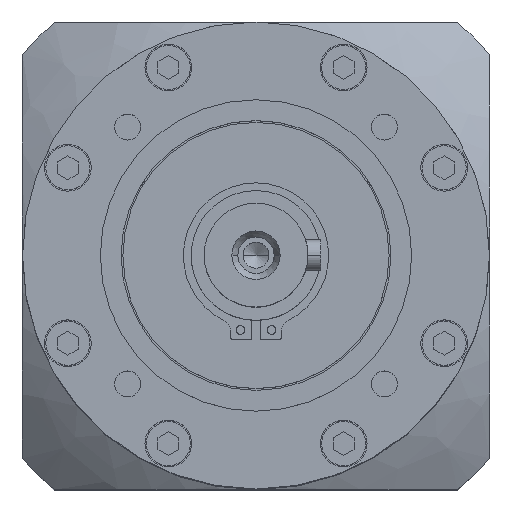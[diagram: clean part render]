
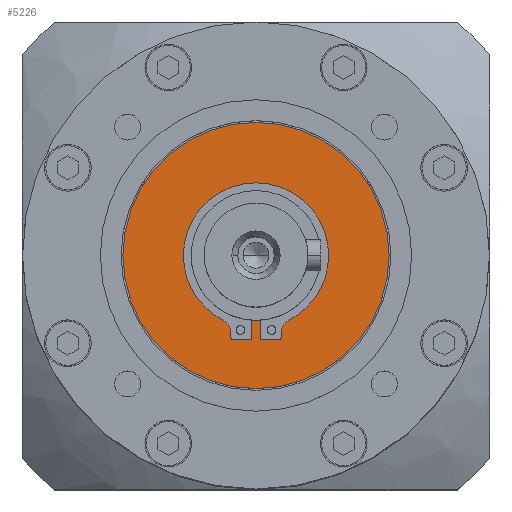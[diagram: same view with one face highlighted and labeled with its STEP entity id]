
A CAD part, top view. The second image highlights one B-rep face of the part: STEP entity #5226.
In plain terms, the highlighted planar face has unit normal (0, 0, 1).
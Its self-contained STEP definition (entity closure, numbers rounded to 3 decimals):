
#74 = DIRECTION ( 'NONE',  ( 0., 0., 1. ) ) ;
#121 = ORIENTED_EDGE ( 'NONE', *, *, #3882, .F. ) ;
#212 = VERTEX_POINT ( 'NONE', #26158 ) ;
#440 = DIRECTION ( 'NONE',  ( 0., 0., 1. ) ) ;
#458 = VERTEX_POINT ( 'NONE', #3095 ) ;
#559 = CIRCLE ( 'NONE', #5361, 12.5 ) ;
#627 = ORIENTED_EDGE ( 'NONE', *, *, #7510, .F. ) ;
#1059 = VERTEX_POINT ( 'NONE', #4202 ) ;
#1067 = CIRCLE ( 'NONE', #20958, 14. ) ;
#1071 = CARTESIAN_POINT ( 'NONE',  ( 0., -16.271, -2.5 ) ) ;
#1305 = CARTESIAN_POINT ( 'NONE',  ( -0.85, -16.271, -2.5 ) ) ;
#1336 = EDGE_CURVE ( 'NONE', #12177, #26310, #16762, .T. ) ;
#1368 = DIRECTION ( 'NONE',  ( 1., 0., 0. ) ) ;
#1464 = DIRECTION ( 'NONE',  ( -1., 0., 0. ) ) ;
#1473 = DIRECTION ( 'NONE',  ( 0., 0., -1. ) ) ;
#1507 = ORIENTED_EDGE ( 'NONE', *, *, #8614, .F. ) ;
#1529 = VECTOR ( 'NONE', #23571, 1000. ) ;
#1537 = CARTESIAN_POINT ( 'NONE',  ( 0., 0., -2.5 ) ) ;
#2169 = DIRECTION ( 'NONE',  ( -1., 0., 0. ) ) ;
#2192 = PLANE ( 'NONE',  #16504 ) ;
#2225 = DIRECTION ( 'NONE',  ( 0., 0., -1. ) ) ;
#2261 = CARTESIAN_POINT ( 'NONE',  ( -7.35, -14.773, -2.5 ) ) ;
#2567 = ORIENTED_EDGE ( 'NONE', *, *, #24922, .F. ) ;
#2584 = EDGE_LOOP ( 'NONE', ( #22343, #11453, #627, #14834, #19795, #1507, #15634, #121, #9579, #14348, #3889, #7183, #13733, #2567 ) ) ;
#2735 = FACE_OUTER_BOUND ( 'NONE', #22479, .T. ) ;
#3095 = CARTESIAN_POINT ( 'NONE',  ( 25.652, 0., -2.5 ) ) ;
#3249 = CIRCLE ( 'NONE', #22931, 14. ) ;
#3499 = DIRECTION ( 'NONE',  ( -1., 0., 0. ) ) ;
#3503 = DIRECTION ( 'NONE',  ( 0., 0., -1. ) ) ;
#3529 = CARTESIAN_POINT ( 'NONE',  ( 0., 0., -2.5 ) ) ;
#3882 = EDGE_CURVE ( 'NONE', #22290, #16355, #24054, .T. ) ;
#3889 = ORIENTED_EDGE ( 'NONE', *, *, #1336, .F. ) ;
#4044 = CARTESIAN_POINT ( 'NONE',  ( -4.85, -14.773, -2.5 ) ) ;
#4202 = CARTESIAN_POINT ( 'NONE',  ( -6.236, -12.534, -2.5 ) ) ;
#4575 = CARTESIAN_POINT ( 'NONE',  ( 6.236, -12.534, -2.5 ) ) ;
#4886 = DIRECTION ( 'NONE',  ( -1., 0., 0. ) ) ;
#5037 = VERTEX_POINT ( 'NONE', #4575 ) ;
#5052 = CARTESIAN_POINT ( 'NONE',  ( 4.85, -15.771, -2.5 ) ) ;
#5113 = LINE ( 'NONE', #1071, #21895 ) ;
#5226 = ADVANCED_FACE ( 'NONE', ( #2735, #24546 ), #2192, .F. ) ;
#5269 = EDGE_CURVE ( 'NONE', #26310, #11646, #5113, .T. ) ;
#5361 = AXIS2_PLACEMENT_3D ( 'NONE', #12974, #74, #15066 ) ;
#6253 = CARTESIAN_POINT ( 'NONE',  ( -4.85, 0., -2.5 ) ) ;
#6708 = AXIS2_PLACEMENT_3D ( 'NONE', #13327, #440, #15432 ) ;
#7183 = ORIENTED_EDGE ( 'NONE', *, *, #25403, .F. ) ;
#7429 = CARTESIAN_POINT ( 'NONE',  ( 4.35, -16.271, -2.5 ) ) ;
#7510 = EDGE_CURVE ( 'NONE', #1059, #19214, #23208, .T. ) ;
#7573 = VERTEX_POINT ( 'NONE', #1305 ) ;
#8194 = DIRECTION ( 'NONE',  ( 0., 1., 0. ) ) ;
#8201 = EDGE_CURVE ( 'NONE', #10905, #212, #19162, .T. ) ;
#8438 = DIRECTION ( 'NONE',  ( 0., 0., -1. ) ) ;
#8614 = EDGE_CURVE ( 'NONE', #5037, #19211, #20675, .T. ) ;
#9579 = ORIENTED_EDGE ( 'NONE', *, *, #22769, .F. ) ;
#9581 = EDGE_CURVE ( 'NONE', #13301, #458, #21426, .T. ) ;
#9725 = CARTESIAN_POINT ( 'NONE',  ( 0., 0., -2.5 ) ) ;
#10445 = CARTESIAN_POINT ( 'NONE',  ( 4.85, -14.773, -2.5 ) ) ;
#10903 = AXIS2_PLACEMENT_3D ( 'NONE', #25672, #25625, #25615 ) ;
#10905 = VERTEX_POINT ( 'NONE', #19004 ) ;
#10954 = VECTOR ( 'NONE', #20953, 1000. ) ;
#11453 = ORIENTED_EDGE ( 'NONE', *, *, #26506, .F. ) ;
#11524 = CIRCLE ( 'NONE', #6708, 0.5 ) ;
#11529 = CARTESIAN_POINT ( 'NONE',  ( 0., -16.271, -2.5 ) ) ;
#11646 = VERTEX_POINT ( 'NONE', #7429 ) ;
#11882 = DIRECTION ( 'NONE',  ( -1., 0., 0. ) ) ;
#12177 = VERTEX_POINT ( 'NONE', #20200 ) ;
#12393 = DIRECTION ( 'NONE',  ( 0., 0., 1. ) ) ;
#12426 = CARTESIAN_POINT ( 'NONE',  ( -14., 0., -2.5 ) ) ;
#12626 = AXIS2_PLACEMENT_3D ( 'NONE', #3529, #3503, #3499 ) ;
#12693 = CIRCLE ( 'NONE', #26846, 2.5 ) ;
#12974 = CARTESIAN_POINT ( 'NONE',  ( 0., 0., -2.5 ) ) ;
#13069 = LINE ( 'NONE', #20663, #23497 ) ;
#13096 = VERTEX_POINT ( 'NONE', #18907 ) ;
#13287 = LINE ( 'NONE', #11529, #24381 ) ;
#13301 = VERTEX_POINT ( 'NONE', #16731 ) ;
#13327 = CARTESIAN_POINT ( 'NONE',  ( 4.35, -15.771, -2.5 ) ) ;
#13564 = VERTEX_POINT ( 'NONE', #12426 ) ;
#13668 = CIRCLE ( 'NONE', #26664, 25.652 ) ;
#13707 = CARTESIAN_POINT ( 'NONE',  ( 0., 0., -2.5 ) ) ;
#13733 = ORIENTED_EDGE ( 'NONE', *, *, #20328, .F. ) ;
#14348 = ORIENTED_EDGE ( 'NONE', *, *, #5269, .F. ) ;
#14543 = AXIS2_PLACEMENT_3D ( 'NONE', #19588, #19562, #19543 ) ;
#14753 = EDGE_CURVE ( 'NONE', #19211, #13564, #3249, .T. ) ;
#14834 = ORIENTED_EDGE ( 'NONE', *, *, #22363, .F. ) ;
#14901 = EDGE_CURVE ( 'NONE', #458, #13301, #13668, .T. ) ;
#15066 = DIRECTION ( 'NONE',  ( -1., 0., 0. ) ) ;
#15432 = DIRECTION ( 'NONE',  ( -1., 0., 0. ) ) ;
#15634 = ORIENTED_EDGE ( 'NONE', *, *, #20929, .F. ) ;
#16355 = VERTEX_POINT ( 'NONE', #10445 ) ;
#16504 = AXIS2_PLACEMENT_3D ( 'NONE', #1537, #1473, #1464 ) ;
#16548 = LINE ( 'NONE', #6253, #10954 ) ;
#16731 = CARTESIAN_POINT ( 'NONE',  ( -25.652, 0., -2.5 ) ) ;
#16762 = LINE ( 'NONE', #23359, #1529 ) ;
#18273 = CARTESIAN_POINT ( 'NONE',  ( 0.85, -16.271, -2.5 ) ) ;
#18384 = ORIENTED_EDGE ( 'NONE', *, *, #14901, .F. ) ;
#18763 = CARTESIAN_POINT ( 'NONE',  ( 14., 0., -2.5 ) ) ;
#18907 = CARTESIAN_POINT ( 'NONE',  ( -0.85, -12.471, -2.5 ) ) ;
#19004 = CARTESIAN_POINT ( 'NONE',  ( -4.85, -15.771, -2.5 ) ) ;
#19162 = CIRCLE ( 'NONE', #10903, 0.5 ) ;
#19211 = VERTEX_POINT ( 'NONE', #18763 ) ;
#19214 = VERTEX_POINT ( 'NONE', #4044 ) ;
#19452 = DIRECTION ( 'NONE',  ( 1., 0., 0. ) ) ;
#19543 = DIRECTION ( 'NONE',  ( -1., 0., 0. ) ) ;
#19562 = DIRECTION ( 'NONE',  ( 0., 0., 1. ) ) ;
#19588 = CARTESIAN_POINT ( 'NONE',  ( 0., 0., -2.5 ) ) ;
#19795 = ORIENTED_EDGE ( 'NONE', *, *, #14753, .F. ) ;
#20200 = CARTESIAN_POINT ( 'NONE',  ( 0.85, -12.471, -2.5 ) ) ;
#20328 = EDGE_CURVE ( 'NONE', #7573, #13096, #13069, .T. ) ;
#20663 = CARTESIAN_POINT ( 'NONE',  ( -0.85, 0., -2.5 ) ) ;
#20675 = CIRCLE ( 'NONE', #14543, 14. ) ;
#20929 = EDGE_CURVE ( 'NONE', #16355, #5037, #12693, .T. ) ;
#20953 = DIRECTION ( 'NONE',  ( 0., -1., 0. ) ) ;
#20958 = AXIS2_PLACEMENT_3D ( 'NONE', #9725, #24388, #11882 ) ;
#20982 = CARTESIAN_POINT ( 'NONE',  ( 7.35, -14.773, -2.5 ) ) ;
#21415 = CARTESIAN_POINT ( 'NONE',  ( 4.85, 0., -2.5 ) ) ;
#21426 = CIRCLE ( 'NONE', #12626, 25.652 ) ;
#21716 = DIRECTION ( 'NONE',  ( 0., 1., 0. ) ) ;
#21895 = VECTOR ( 'NONE', #1368, 1000. ) ;
#22290 = VERTEX_POINT ( 'NONE', #5052 ) ;
#22343 = ORIENTED_EDGE ( 'NONE', *, *, #8201, .F. ) ;
#22355 = VECTOR ( 'NONE', #21716, 1000. ) ;
#22363 = EDGE_CURVE ( 'NONE', #13564, #1059, #1067, .T. ) ;
#22479 = EDGE_LOOP ( 'NONE', ( #27509, #18384 ) ) ;
#22769 = EDGE_CURVE ( 'NONE', #11646, #22290, #11524, .T. ) ;
#22931 = AXIS2_PLACEMENT_3D ( 'NONE', #13707, #12393, #4886 ) ;
#23100 = DIRECTION ( 'NONE',  ( -1., 0., 0. ) ) ;
#23208 = CIRCLE ( 'NONE', #23766, 2.5 ) ;
#23359 = CARTESIAN_POINT ( 'NONE',  ( 0.85, 0., -2.5 ) ) ;
#23497 = VECTOR ( 'NONE', #8194, 1000. ) ;
#23571 = DIRECTION ( 'NONE',  ( 0., -1., 0. ) ) ;
#23766 = AXIS2_PLACEMENT_3D ( 'NONE', #2261, #2225, #2169 ) ;
#24054 = LINE ( 'NONE', #21415, #22355 ) ;
#24381 = VECTOR ( 'NONE', #19452, 1000. ) ;
#24388 = DIRECTION ( 'NONE',  ( 0., 0., 1. ) ) ;
#24546 = FACE_BOUND ( 'NONE', #2584, .T. ) ;
#24922 = EDGE_CURVE ( 'NONE', #212, #7573, #13287, .T. ) ;
#25023 = DIRECTION ( 'NONE',  ( -1., 0., 0. ) ) ;
#25025 = DIRECTION ( 'NONE',  ( 0., 0., -1. ) ) ;
#25062 = CARTESIAN_POINT ( 'NONE',  ( 0., 0., -2.5 ) ) ;
#25403 = EDGE_CURVE ( 'NONE', #13096, #12177, #559, .T. ) ;
#25615 = DIRECTION ( 'NONE',  ( -1., 0., 0. ) ) ;
#25625 = DIRECTION ( 'NONE',  ( 0., 0., 1. ) ) ;
#25672 = CARTESIAN_POINT ( 'NONE',  ( -4.35, -15.771, -2.5 ) ) ;
#26158 = CARTESIAN_POINT ( 'NONE',  ( -4.35, -16.271, -2.5 ) ) ;
#26310 = VERTEX_POINT ( 'NONE', #18273 ) ;
#26506 = EDGE_CURVE ( 'NONE', #19214, #10905, #16548, .T. ) ;
#26664 = AXIS2_PLACEMENT_3D ( 'NONE', #25062, #25025, #25023 ) ;
#26846 = AXIS2_PLACEMENT_3D ( 'NONE', #20982, #8438, #23100 ) ;
#27509 = ORIENTED_EDGE ( 'NONE', *, *, #9581, .F. ) ;
